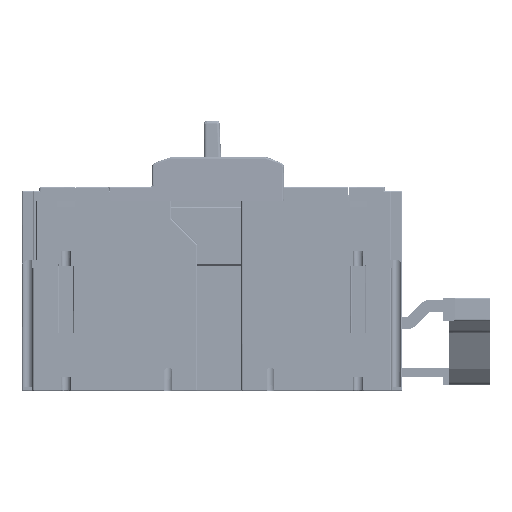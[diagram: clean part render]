
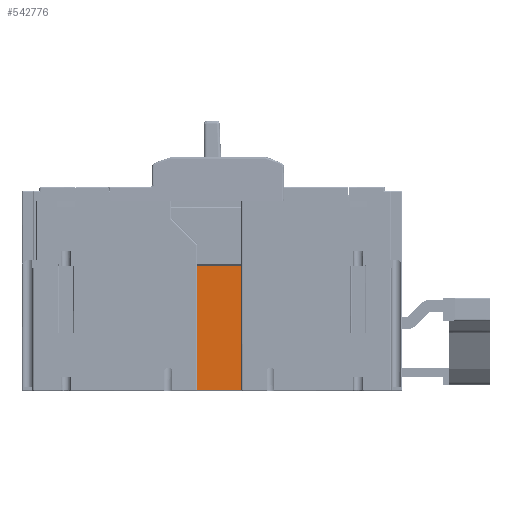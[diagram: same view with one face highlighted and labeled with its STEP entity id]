
A CAD part, left-side view. The second image highlights one B-rep face of the part: STEP entity #542776.
In plain terms, the highlighted planar face has unit normal (-1, 0, 0).
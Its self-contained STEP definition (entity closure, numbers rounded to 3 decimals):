
#56865 = VECTOR ( 'NONE', #184480, 1000. ) ;
#105909 = VERTEX_POINT ( 'NONE', #376628 ) ;
#105955 = VERTEX_POINT ( 'NONE', #376861 ) ;
#105983 = VERTEX_POINT ( 'NONE', #377020 ) ;
#106003 = VERTEX_POINT ( 'NONE', #377086 ) ;
#173380 = AXIS2_PLACEMENT_3D ( 'NONE', #185082, #185084, #185087 ) ;
#184442 = LINE ( 'NONE', #184445, #56865 ) ;
#184445 = CARTESIAN_POINT ( 'NONE',  ( -116.049, -59.537, -45.756 ) ) ;
#184480 = DIRECTION ( 'NONE',  ( 0., 1., 0. ) ) ;
#185032 = FACE_OUTER_BOUND ( 'NONE', #404219, .T. ) ;
#185038 = PLANE ( 'NONE',  #173380 ) ;
#185082 = CARTESIAN_POINT ( 'NONE',  ( -116.049, 10.463, -46.256 ) ) ;
#185084 = DIRECTION ( 'NONE',  ( 1., 0., 0. ) ) ;
#185087 = DIRECTION ( 'NONE',  ( 0., 0., -1. ) ) ;
#190677 = ORIENTED_EDGE ( 'NONE', *, *, #394309, .F. ) ;
#190679 = ORIENTED_EDGE ( 'NONE', *, *, #513501, .F. ) ;
#190682 = ORIENTED_EDGE ( 'NONE', *, *, #394283, .F. ) ;
#190685 = ORIENTED_EDGE ( 'NONE', *, *, #394321, .F. ) ;
#268801 = CARTESIAN_POINT ( 'NONE',  ( -116.049, -4.537, -46.256 ) ) ;
#268803 = LINE ( 'NONE', #268801, #586596 ) ;
#268830 = DIRECTION ( 'NONE',  ( 0., 0., -1. ) ) ;
#268858 = CARTESIAN_POINT ( 'NONE',  ( -116.049, 10.463, -46.256 ) ) ;
#268861 = LINE ( 'NONE', #268858, #586648 ) ;
#268876 = LINE ( 'NONE', #268900, #586660 ) ;
#268880 = DIRECTION ( 'NONE',  ( 0., 0., 1. ) ) ;
#268900 = CARTESIAN_POINT ( 'NONE',  ( -116.049, 10.463, -3.256 ) ) ;
#268913 = DIRECTION ( 'NONE',  ( 0., -1., 0. ) ) ;
#376628 = CARTESIAN_POINT ( 'NONE',  ( -116.049, -4.537, -3.256 ) ) ;
#376861 = CARTESIAN_POINT ( 'NONE',  ( -116.049, 10.463, -45.756 ) ) ;
#377020 = CARTESIAN_POINT ( 'NONE',  ( -116.049, -4.537, -45.756 ) ) ;
#377086 = CARTESIAN_POINT ( 'NONE',  ( -116.049, 10.463, -3.256 ) ) ;
#394283 = EDGE_CURVE ( 'NONE', #105909, #105983, #268803, .T. ) ;
#394309 = EDGE_CURVE ( 'NONE', #105955, #106003, #268861, .T. ) ;
#394321 = EDGE_CURVE ( 'NONE', #106003, #105909, #268876, .T. ) ;
#404219 = EDGE_LOOP ( 'NONE', ( #190677, #190679, #190682, #190685 ) ) ;
#513501 = EDGE_CURVE ( 'NONE', #105983, #105955, #184442, .T. ) ;
#542776 = ADVANCED_FACE ( 'NONE', ( #185032 ), #185038, .F. ) ;
#586596 = VECTOR ( 'NONE', #268830, 1000. ) ;
#586648 = VECTOR ( 'NONE', #268880, 1000. ) ;
#586660 = VECTOR ( 'NONE', #268913, 1000. ) ;
